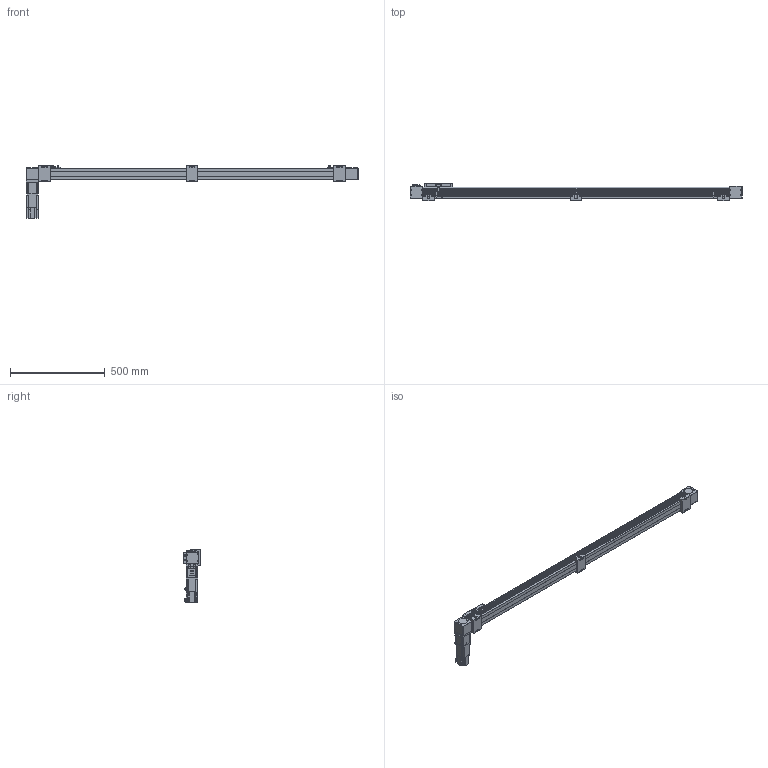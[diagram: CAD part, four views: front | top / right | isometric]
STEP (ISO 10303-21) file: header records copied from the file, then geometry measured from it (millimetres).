
FILE_DESCRIPTION(/* description */ ('STEP AP203'),/* implementation_level */ '2;1');
FILE_NAME(/* name */ 'SK60-P13-S1450-BR-T40-C1-N(0)',/* time_stamp */ '2023-04-06T04:00:04+02:00',/* author */ ('License CC BY-ND 4.0'),/* organization */ ('CADENAS'),/* preprocessor_version */ 'ST-DEVELOPER v19.3',/* originating_system */ 'PARTsolutions',/* authorisation */ ' ');
FILE_SCHEMA (('CONFIG_CONTROL_DESIGN'));
Length unit declared in the file: millimetre
Products named in the file (11): SK60-P13-S1450-BR-T40-C1-N(0); PSC140-sensor; SK60-S450_seat; SK60-S450-BL-C1_slider; SK60_body3; SK60_body6; SK60-BL_body2; T40-p1; SK60_body5; SK60_body4; SK60-S1450-BR-C1_body
Assembly tree (18 placements, depth 2):
  SK60-P13-S1450-BR-T40-C1-N(0)
    PSC140-sensor  x3
    SK60-S450_seat  x3
    SK60-S450-BL-C1_slider
    SK60_body3  x3
    SK60_body6  x2
    SK60-BL_body2  x2
    T40-p1
    SK60_body5
    SK60_body4
    SK60-S1450-BR-C1_body
Bounding box: 1750 x 90 x 279.1 mm (x, y, z)
Volume: 6520818.4 mm3; surface area: 836011 mm2
Topology: 18 solids, 22 shells, 878 faces, 2207 edges, 1458 vertices
Faces by surface type: plane 568, cylinder 282, cone 26, torus 2
Full cylindrical faces by diameter (mm): 2.8 x3, 3.3 x4, 4.2 x8, 4.5 x26, 4.6 x3, 4.917 x20, 5 x2, 5.478 x4, 5.5 x23, 6.5 x6, 8 x4, 8.5 x4, 9.988 x4, 10 x12, 13.556 x1, 14 x1, 14.586 x1, 19.692 x1, 38.432 x2, 43 x1, 44 x3, 47 x2, 50 x2
Entity records: 19379 total; most frequent: DIRECTION 3294, CARTESIAN_POINT 3290, ORIENTED_EDGE 3050, EDGE_CURVE 1525, AXIS2_PLACEMENT_3D 1101, LINE 1092, VECTOR 1092, VERTEX_POINT 1077
